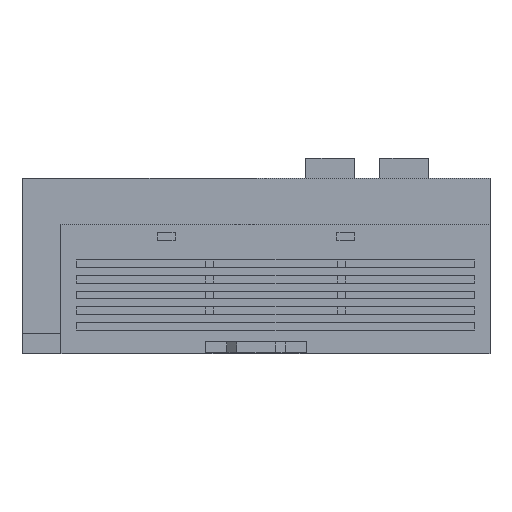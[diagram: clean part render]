
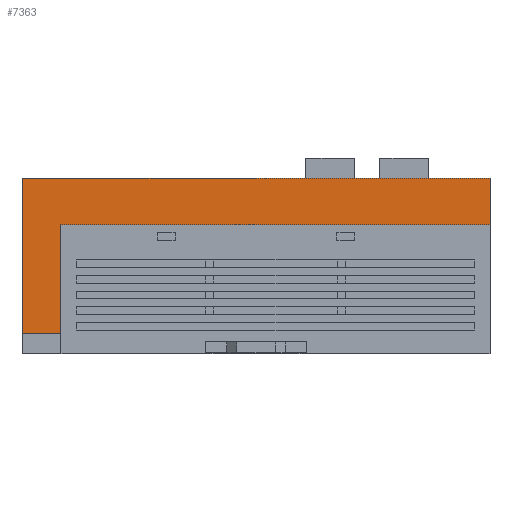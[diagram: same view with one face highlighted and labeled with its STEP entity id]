
A CAD part, front view. The second image highlights one B-rep face of the part: STEP entity #7363.
In plain terms, the highlighted planar face has unit normal (0, -1, 0).
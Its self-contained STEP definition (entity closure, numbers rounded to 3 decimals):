
#5935 = VERTEX_POINT ( 'NONE', #27083 ) ;
#5938 = EDGE_CURVE ( 'NONE', #5935, #8633, #27081, .T. ) ;
#6573 = EDGE_CURVE ( 'NONE', #8633, #6574, #28722, .T. ) ;
#6574 = VERTEX_POINT ( 'NONE', #28718 ) ;
#7269 = VERTEX_POINT ( 'NONE', #30361 ) ;
#7271 = EDGE_CURVE ( 'NONE', #7272, #7269, #30360, .T. ) ;
#7272 = VERTEX_POINT ( 'NONE', #30356 ) ;
#7341 = ORIENTED_EDGE ( 'NONE', *, *, #5938, .F. ) ;
#7342 = ORIENTED_EDGE ( 'NONE', *, *, #7343, .F. ) ;
#7343 = EDGE_CURVE ( 'NONE', #7344, #5935, #30512, .T. ) ;
#7344 = VERTEX_POINT ( 'NONE', #30508 ) ;
#7345 = ORIENTED_EDGE ( 'NONE', *, *, #7346, .F. ) ;
#7346 = EDGE_CURVE ( 'NONE', #7347, #7344, #30507, .T. ) ;
#7347 = VERTEX_POINT ( 'NONE', #30503 ) ;
#7348 = ORIENTED_EDGE ( 'NONE', *, *, #7349, .F. ) ;
#7349 = EDGE_CURVE ( 'NONE', #7350, #7347, #30502, .T. ) ;
#7350 = VERTEX_POINT ( 'NONE', #30498 ) ;
#7351 = ORIENTED_EDGE ( 'NONE', *, *, #7352, .T. ) ;
#7352 = EDGE_CURVE ( 'NONE', #7350, #7353, #30497, .T. ) ;
#7353 = VERTEX_POINT ( 'NONE', #30493 ) ;
#7363 = ADVANCED_FACE ( 'NONE', ( #30522 ), #30562, .F. ) ;
#7364 = EDGE_LOOP ( 'NONE', ( #7365, #7423, #7341, #7342, #7345, #7348, #7351, #7410, #7413, #7415 ) ) ;
#7365 = ORIENTED_EDGE ( 'NONE', *, *, #7367, .T. ) ;
#7367 = EDGE_CURVE ( 'NONE', #7269, #6574, #30556, .T. ) ;
#7410 = ORIENTED_EDGE ( 'NONE', *, *, #7411, .T. ) ;
#7411 = EDGE_CURVE ( 'NONE', #7353, #7412, #30661, .T. ) ;
#7412 = VERTEX_POINT ( 'NONE', #30657 ) ;
#7413 = ORIENTED_EDGE ( 'NONE', *, *, #7414, .F. ) ;
#7414 = EDGE_CURVE ( 'NONE', #7272, #7412, #30655, .T. ) ;
#7415 = ORIENTED_EDGE ( 'NONE', *, *, #7271, .T. ) ;
#7423 = ORIENTED_EDGE ( 'NONE', *, *, #6573, .F. ) ;
#8633 = VERTEX_POINT ( 'NONE', #34196 ) ;
#27078 = DIRECTION ( 'NONE',  ( -1., 0., 0. ) ) ;
#27079 = VECTOR ( 'NONE', #27078, 1000. ) ;
#27080 = CARTESIAN_POINT ( 'NONE',  ( -59.9, -29.5, 0. ) ) ;
#27081 = LINE ( 'NONE', #27080, #27079 ) ;
#27083 = CARTESIAN_POINT ( 'NONE',  ( -58., -29.5, 0. ) ) ;
#28718 = CARTESIAN_POINT ( 'NONE',  ( -60., -29.5, 45. ) ) ;
#28719 = DIRECTION ( 'NONE',  ( 0., 0., 1. ) ) ;
#28720 = VECTOR ( 'NONE', #28719, 1000. ) ;
#28721 = CARTESIAN_POINT ( 'NONE',  ( -60., -29.5, 33. ) ) ;
#28722 = LINE ( 'NONE', #28721, #28720 ) ;
#30356 = CARTESIAN_POINT ( 'NONE',  ( 60., -29.5, 33. ) ) ;
#30357 = DIRECTION ( 'NONE',  ( 0., 0., 1. ) ) ;
#30358 = VECTOR ( 'NONE', #30357, 1000. ) ;
#30359 = CARTESIAN_POINT ( 'NONE',  ( 60., -29.5, 33. ) ) ;
#30360 = LINE ( 'NONE', #30359, #30358 ) ;
#30361 = CARTESIAN_POINT ( 'NONE',  ( 60., -29.5, 45. ) ) ;
#30493 = CARTESIAN_POINT ( 'NONE',  ( -50., -29.5, 5.1 ) ) ;
#30494 = DIRECTION ( 'NONE',  ( 1., 0., 0. ) ) ;
#30495 = VECTOR ( 'NONE', #30494, 1000. ) ;
#30496 = CARTESIAN_POINT ( 'NONE',  ( -59.9, -29.5, 5.1 ) ) ;
#30497 = LINE ( 'NONE', #30496, #30495 ) ;
#30498 = CARTESIAN_POINT ( 'NONE',  ( -59.9, -29.5, 5.1 ) ) ;
#30499 = DIRECTION ( 'NONE',  ( 0., 0., -1. ) ) ;
#30500 = VECTOR ( 'NONE', #30499, 1000. ) ;
#30501 = CARTESIAN_POINT ( 'NONE',  ( -59.9, -29.5, 5.2 ) ) ;
#30502 = LINE ( 'NONE', #30501, #30500 ) ;
#30503 = CARTESIAN_POINT ( 'NONE',  ( -59.9, -29.5, 0.1 ) ) ;
#30504 = DIRECTION ( 'NONE',  ( 1., 0., 0. ) ) ;
#30505 = VECTOR ( 'NONE', #30504, 1000. ) ;
#30506 = CARTESIAN_POINT ( 'NONE',  ( -60., -29.5, 0.1 ) ) ;
#30507 = LINE ( 'NONE', #30506, #30505 ) ;
#30508 = CARTESIAN_POINT ( 'NONE',  ( -58., -29.5, 0.1 ) ) ;
#30509 = DIRECTION ( 'NONE',  ( 0., 0., -1. ) ) ;
#30510 = VECTOR ( 'NONE', #30509, 1000. ) ;
#30511 = CARTESIAN_POINT ( 'NONE',  ( -58., -29.5, 0.1 ) ) ;
#30512 = LINE ( 'NONE', #30511, #30510 ) ;
#30522 = FACE_OUTER_BOUND ( 'NONE', #7364, .T. ) ;
#30553 = DIRECTION ( 'NONE',  ( -1., 0., 0. ) ) ;
#30554 = VECTOR ( 'NONE', #30553, 1000. ) ;
#30555 = CARTESIAN_POINT ( 'NONE',  ( -60., -29.5, 45. ) ) ;
#30556 = LINE ( 'NONE', #30555, #30554 ) ;
#30558 = DIRECTION ( 'NONE',  ( 0., 0., 1. ) ) ;
#30559 = DIRECTION ( 'NONE',  ( 0., 1., 0. ) ) ;
#30560 = CARTESIAN_POINT ( 'NONE',  ( -60., -29.5, 33. ) ) ;
#30561 = AXIS2_PLACEMENT_3D ( 'NONE', #30560, #30559, #30558 ) ;
#30562 = PLANE ( 'NONE',  #30561 ) ;
#30652 = DIRECTION ( 'NONE',  ( -1., 0., 0. ) ) ;
#30653 = VECTOR ( 'NONE', #30652, 1000. ) ;
#30654 = CARTESIAN_POINT ( 'NONE',  ( -60., -29.5, 33. ) ) ;
#30655 = LINE ( 'NONE', #30654, #30653 ) ;
#30657 = CARTESIAN_POINT ( 'NONE',  ( -50., -29.5, 33. ) ) ;
#30658 = DIRECTION ( 'NONE',  ( 0., 0., 1. ) ) ;
#30659 = VECTOR ( 'NONE', #30658, 1000. ) ;
#30660 = CARTESIAN_POINT ( 'NONE',  ( -50., -29.5, 5.2 ) ) ;
#30661 = LINE ( 'NONE', #30660, #30659 ) ;
#34196 = CARTESIAN_POINT ( 'NONE',  ( -60., -29.5, 0. ) ) ;
